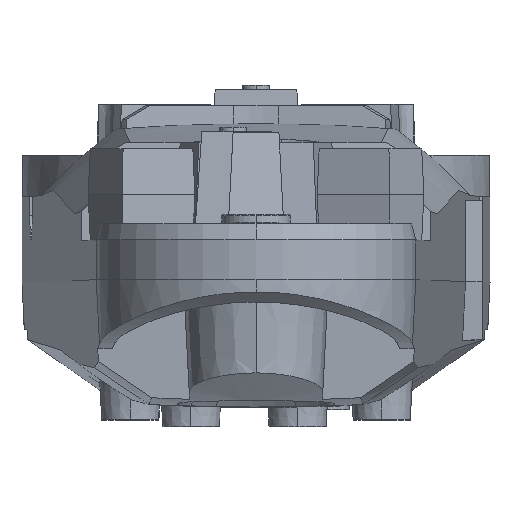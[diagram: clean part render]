
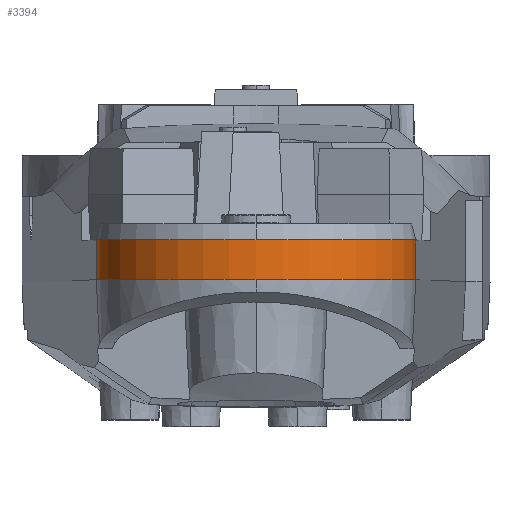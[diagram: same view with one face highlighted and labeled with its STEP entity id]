
A CAD part, top view. The second image highlights one B-rep face of the part: STEP entity #3394.
In plain terms, the highlighted cylindrical face has radius 70 mm (diameter 140 mm), a partial arc.
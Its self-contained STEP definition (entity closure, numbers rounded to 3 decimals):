
#430 = VERTEX_POINT ( 'NONE', #11000 ) ;
#455 = ORIENTED_EDGE ( 'NONE', *, *, #11222, .F. ) ;
#709 = ORIENTED_EDGE ( 'NONE', *, *, #6007, .T. ) ;
#1074 = ORIENTED_EDGE ( 'NONE', *, *, #4566, .F. ) ;
#1654 = VECTOR ( 'NONE', #19005, 1000. ) ;
#2188 = LINE ( 'NONE', #14024, #1654 ) ;
#2224 = CYLINDRICAL_SURFACE ( 'NONE', #14542, 70. ) ;
#2428 = AXIS2_PLACEMENT_3D ( 'NONE', #17613, #17631, #17611 ) ;
#2508 = DIRECTION ( 'NONE',  ( 0., -1., 0. ) ) ;
#2686 = DIRECTION ( 'NONE',  ( 0., -1., 0. ) ) ;
#3285 = LINE ( 'NONE', #17316, #19151 ) ;
#3394 = ADVANCED_FACE ( 'NONE', ( #6576 ), #2224, .T. ) ;
#4386 = CARTESIAN_POINT ( 'NONE',  ( 219.925, -174.4, 1148.25 ) ) ;
#4503 = CARTESIAN_POINT ( 'NONE',  ( 219.925, -157., 1148.25 ) ) ;
#4566 = EDGE_CURVE ( 'NONE', #430, #19728, #16198, .T. ) ;
#6007 = EDGE_CURVE ( 'NONE', #9028, #14368, #7361, .T. ) ;
#6385 = CARTESIAN_POINT ( 'NONE',  ( 150., -174.4, 1145. ) ) ;
#6576 = FACE_OUTER_BOUND ( 'NONE', #17152, .T. ) ;
#7310 = CIRCLE ( 'NONE', #14597, 70. ) ;
#7361 = CIRCLE ( 'NONE', #2428, 70. ) ;
#8023 = DIRECTION ( 'NONE',  ( 1., 0., 0. ) ) ;
#8465 = AXIS2_PLACEMENT_3D ( 'NONE', #12455, #2686, #14076 ) ;
#9028 = VERTEX_POINT ( 'NONE', #4503 ) ;
#10182 = DIRECTION ( 'NONE',  ( 0., -1., 0. ) ) ;
#10227 = CARTESIAN_POINT ( 'NONE',  ( 150., -157., 1145. ) ) ;
#10443 = DIRECTION ( 'NONE',  ( 0., 0., -1. ) ) ;
#10446 = CARTESIAN_POINT ( 'NONE',  ( 80.075, -174.4, 1148.25 ) ) ;
#11000 = CARTESIAN_POINT ( 'NONE',  ( 150., -174.4, 1215. ) ) ;
#11222 = EDGE_CURVE ( 'NONE', #9028, #20752, #3285, .T. ) ;
#11565 = CARTESIAN_POINT ( 'NONE',  ( 150., -157., 1215. ) ) ;
#12277 = CARTESIAN_POINT ( 'NONE',  ( 150., -157., 1145. ) ) ;
#12455 = CARTESIAN_POINT ( 'NONE',  ( 150., -174.4, 1145. ) ) ;
#12510 = AXIS2_PLACEMENT_3D ( 'NONE', #6385, #19468, #8023 ) ;
#13533 = EDGE_CURVE ( 'NONE', #14368, #16669, #7310, .T. ) ;
#13717 = EDGE_CURVE ( 'NONE', #19728, #16669, #2188, .T. ) ;
#13904 = DIRECTION ( 'NONE',  ( -1., 0., 0. ) ) ;
#14024 = CARTESIAN_POINT ( 'NONE',  ( 80.075, -154.075, 1148.25 ) ) ;
#14076 = DIRECTION ( 'NONE',  ( 1., 0., 0. ) ) ;
#14319 = CIRCLE ( 'NONE', #8465, 70. ) ;
#14368 = VERTEX_POINT ( 'NONE', #11565 ) ;
#14542 = AXIS2_PLACEMENT_3D ( 'NONE', #10227, #10182, #10443 ) ;
#14597 = AXIS2_PLACEMENT_3D ( 'NONE', #12277, #2508, #13904 ) ;
#16198 = CIRCLE ( 'NONE', #12510, 70. ) ;
#16591 = ORIENTED_EDGE ( 'NONE', *, *, #13533, .T. ) ;
#16669 = VERTEX_POINT ( 'NONE', #19874 ) ;
#17152 = EDGE_LOOP ( 'NONE', ( #709, #16591, #19847, #1074, #18983, #455 ) ) ;
#17316 = CARTESIAN_POINT ( 'NONE',  ( 219.925, -165.7, 1148.25 ) ) ;
#17611 = DIRECTION ( 'NONE',  ( -1., 0., 0. ) ) ;
#17613 = CARTESIAN_POINT ( 'NONE',  ( 150., -157., 1145. ) ) ;
#17631 = DIRECTION ( 'NONE',  ( 0., -1., 0. ) ) ;
#17666 = DIRECTION ( 'NONE',  ( 0., -1., 0. ) ) ;
#18913 = EDGE_CURVE ( 'NONE', #20752, #430, #14319, .T. ) ;
#18983 = ORIENTED_EDGE ( 'NONE', *, *, #18913, .F. ) ;
#19005 = DIRECTION ( 'NONE',  ( 0., 1., 0. ) ) ;
#19151 = VECTOR ( 'NONE', #17666, 1000. ) ;
#19468 = DIRECTION ( 'NONE',  ( 0., -1., 0. ) ) ;
#19728 = VERTEX_POINT ( 'NONE', #10446 ) ;
#19847 = ORIENTED_EDGE ( 'NONE', *, *, #13717, .F. ) ;
#19874 = CARTESIAN_POINT ( 'NONE',  ( 80.075, -157., 1148.25 ) ) ;
#20752 = VERTEX_POINT ( 'NONE', #4386 ) ;
